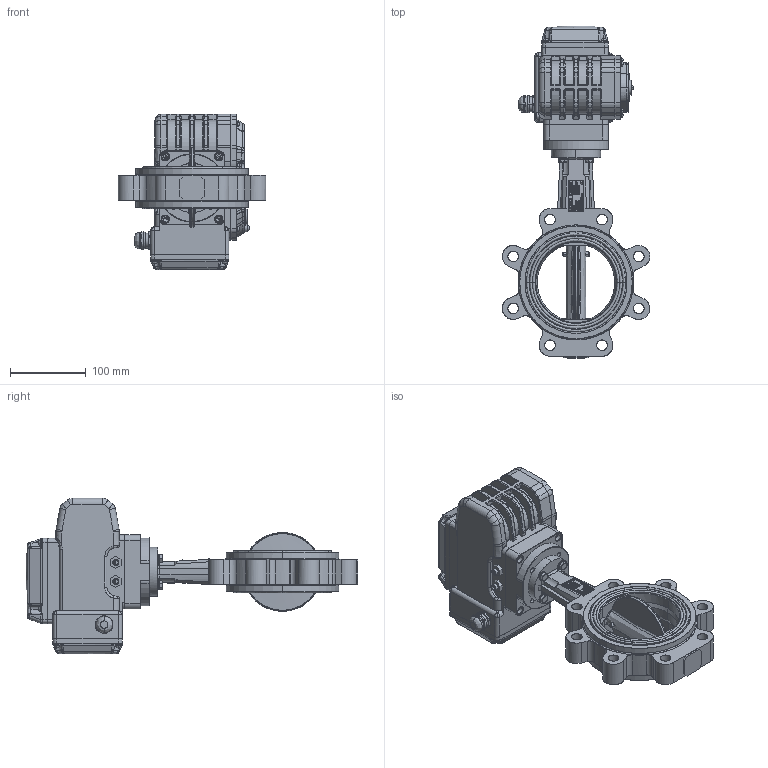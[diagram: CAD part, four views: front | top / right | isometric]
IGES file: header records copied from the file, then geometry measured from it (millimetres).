
Start section: SolidWorks IGES file using analytic representation for surfaces
Global section: file name: H:\BE FABRICATION\BE SERIE\VP\VP SERIE\F072 VPG\plan 3D\VPG-N04\LUG\DN100\VPG464X-NX4XX0100.igs; native system: SolidWorks 2020; preprocessor: SolidWorks 2020; author: k.gigout; date: 220706.094729; units: millimetre
Bounding box: 195.3 x 439.5 x 206.01 mm (x, y, z)
Surface area: 303198.1 mm2 (no closed solid volume)
Topology: 0 solids, 0 shells, 1475 faces, 22981 edges, 22965 vertices
Faces by surface type: bspline 915, revolution 560
